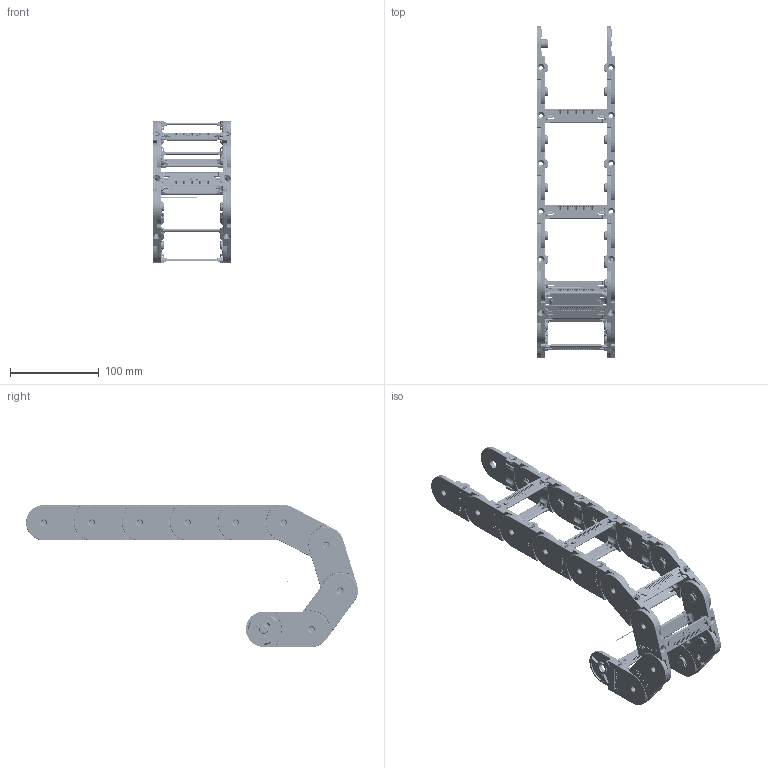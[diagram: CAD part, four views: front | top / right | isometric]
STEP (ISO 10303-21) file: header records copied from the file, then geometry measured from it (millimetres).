
FILE_DESCRIPTION((''),'2;1');
FILE_NAME('E:\Uebbing\PARAMETERKETTEN\PKK\PKK 140\PKK 140 R60 vereinfacht.stp','2018-09-25T10:46:18',('Nutzer'),(''),'Autodesk Inventor 10','Autodesk Inventor 10','');
FILE_SCHEMA(('AUTOMOTIVE_DESIGN { 1 0 10303 214 1 1 1 1 }'));
Length unit declared in the file: millimetre
Products named in the file (8): PKK 140 PARAMETRISCH; PKK 140 Glied ohne STEG; PKK 140 Hauptlasche R60; PKK 120 Spreizriegel; Achse; PKK 140 Glied; PKK 120 Steg 70; PKK 140 Hauptlasche R50 3 Anschläge
Assembly tree (20 placements, depth 3):
  PKK 140 PARAMETRISCH
    PKK 140 Glied ohne STEG  x4
      PKK 140 Hauptlasche R60
      PKK 120 Spreizriegel
    Achse
    PKK 140 Glied  x5
      PKK 120 Steg 70
      PKK 140 Hauptlasche R50 3 Anschläge
      PKK 120 Spreizriegel
Bounding box: 88 x 373.63 x 160 mm (x, y, z)
Volume: 331591 mm3; surface area: 223247.5 mm2
Topology: 47 solids, 47 shells, 13451 faces, 35866 edges, 23177 vertices
Faces by surface type: plane 6598, cylinder 3761, bspline 2174, torus 542, cone 284, sphere 92
Full cylindrical faces by diameter (mm): 1 x1, 1.474 x18, 2.589 x18, 4.2 x18, 6 x18, 8.2 x18, 10 x18, 10.1 x18
Entity records: 47284 total; most frequent: CARTESIAN_POINT 13719, ORIENTED_EDGE 7224, DIRECTION 6421, EDGE_CURVE 3612, VERTEX_POINT 2365, VECTOR 2299, LINE 2299, AXIS2_PLACEMENT_3D 2061
